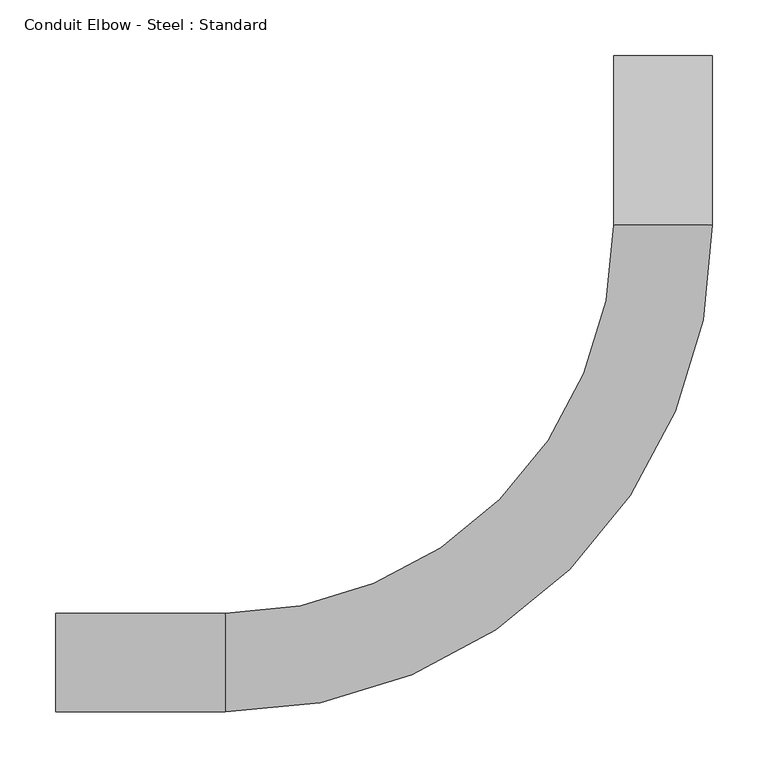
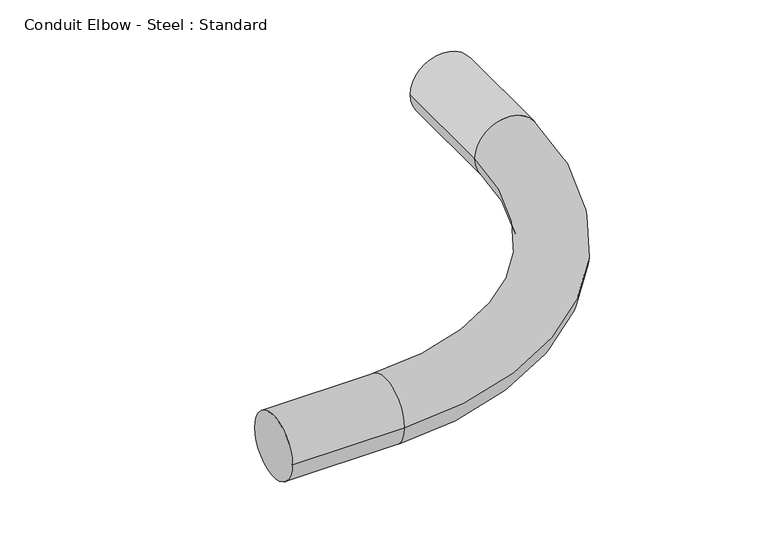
"""IFC4 building model written with IfcOpenShell, lengths in millimetres: cable carrier fitting geometry, Conduit Elbow - Steel : Standard."""

from ifc_helpers import new_model, si_unit, point, frame, origin, place, context, project, spatial, circle_curve, ellipse_curve, trimmed, source, transform, mapped, element, save
from ifc_brep_helpers import plane_surface, cylinder_surface, revolved_surface, advanced_brep


def conduit_elbow_steel_standard_dae572ce(model_context):
    return source(origin(), model_context, "Body", "AdvancedBrep", [
        advanced_brep(
        [(-546.1, -44.45, 0.0), (-546.1, 44.45, 0.0), (-393.7, -44.45, 0.0), (-393.7, 44.45, 0.0), (-44.45, 393.7, 0.0), (44.45, 393.7, 0.0), (44.45, 546.1, 0.0), (-44.45, 546.1, 0.0)],
        [
            (0, 1, circle_curve(frame((-546.1, 0.0, 0.0), z_axis=(-1.0, 0.0, 0.0), x_axis=(0.0, 1.0, 0.0)), 44.45)),
            (1, 0, circle_curve(frame((-546.1, 0.0, 0.0), z_axis=(-1.0, 0.0, 0.0), x_axis=(0.0, 1.0, 0.0)), 44.45)),
            (0, 2),
            (2, 3, circle_curve(frame((-393.7, 0.0, 0.0), z_axis=(-1.0, 0.0, 0.0), x_axis=(0.0, 1.0, 0.0)), 44.45)),
            (3, 1),
            (3, 2, circle_curve(frame((-393.7, 0.0, 0.0), z_axis=(-1.0, 0.0, 0.0), x_axis=(0.0, 1.0, 0.0)), 44.45)),
            (4, 3, circle_curve(frame((-393.7, 393.7, 0.0), z_axis=(0.0, 0.0, -1.0), x_axis=(0.0, -1.0, 0.0)), 349.25)),
            (2, 5, circle_curve(frame((-393.7, 393.7, 0.0), z_axis=(0.0, 0.0, 1.0), x_axis=(0.0, -1.0, 0.0)), 438.15)),
            (5, 4, circle_curve(frame((0.0, 393.7, 0.0), z_axis=(0.0, -1.0, 0.0), x_axis=(-1.0, 0.0, 0.0)), 44.45)),
            (4, 5, circle_curve(frame((0.0, 393.7, 0.0), z_axis=(0.0, -1.0, 0.0), x_axis=(-1.0, 0.0, 0.0)), 44.45)),
            (6, 7, circle_curve(frame((0.0, 546.1, 0.0), z_axis=(0.0, 1.0, 0.0), x_axis=(-1.0, 0.0, 0.0)), 44.45)),
            (7, 6, circle_curve(frame((0.0, 546.1, 0.0), z_axis=(0.0, 1.0, 0.0), x_axis=(-1.0, 0.0, 0.0)), 44.45)),
            (5, 6),
            (7, 4),
        ],
        [
            plane_surface(frame((-546.1, 0.0, 0.0), z_axis=(-1.0, 0.0, 0.0), x_axis=(0.0, 0.0, 1.0))),
            cylinder_surface(frame((-546.1, 0.0, 0.0), z_axis=(-1.0, 0.0, 0.0), x_axis=(0.0, 1.0, 0.0)), 44.45),
            revolved_surface(trimmed(ellipse_curve(frame((-393.7, 0.0, 0.0), z_axis=(-1.0, 0.0, 0.0), x_axis=(0.0, 1.0, 0.0)), 44.45, 44.45), [point((-393.7, -44.45, 0.0))], [point((-393.7, 44.45, 0.0))], True, "CARTESIAN"), (-393.7, 393.7, 0.0), (0.0, 0.0, 1.0)),
            revolved_surface(trimmed(ellipse_curve(frame((-393.7, 0.0, 0.0), z_axis=(-1.0, 0.0, 0.0), x_axis=(0.0, 1.0, 0.0)), 44.45, 44.45), [point((-393.7, 44.45, 0.0))], [point((-393.7, -44.45, 0.0))], True, "CARTESIAN"), (-393.7, 393.7, 0.0), (0.0, 0.0, 1.0)),
            plane_surface(frame((0.0, 546.1, 0.0), z_axis=(0.0, 1.0, 0.0), x_axis=(0.0, 0.0, 1.0))),
            cylinder_surface(frame((0.0, 393.7, 0.0), z_axis=(0.0, -1.0, 0.0), x_axis=(-1.0, 0.0, 0.0)), 44.45),
        ],
        [
            (0, [[1, 2]]),
            (1, [[-1, 3, 4, 5]]),
            (1, [[-2, -5, 6, -3]]),
            (2, [[7, -4, 8, 9]]),
            (3, [[-8, -6, -7, 10]]),
            (4, [[11, 12]]),
            (5, [[-9, 13, -12, 14]]),
            (5, [[-10, -14, -11, -13]]),
        ],
    ),
    ])


if __name__ == "__main__":
    model = new_model("IFC4")
    model_context = context("Model", 3, world=origin())
    ifc_project = project(units=[si_unit("LENGTHUNIT", "METRE", prefix="MILLI")], contexts=[model_context])
    site = spatial("IfcSite", under=ifc_project)
    building = spatial("IfcBuilding", under=site)
    placement = place(None, origin())
    conduit_elbow_steel_standard_shape = conduit_elbow_steel_standard_dae572ce(model_context)
    element("IfcCableCarrierFitting", 1, ObjectType="Conduit Elbow - Steel : Standard", at=placement, inside=building, context=model_context, shape_type="MappedRepresentation", body=[
        mapped(conduit_elbow_steel_standard_shape, transform((0.0, 0.0, 0.0), x_axis=(1.0, 0.0, 0.0), y_axis=(0.0, 1.0, 0.0), z_axis=(0.0, 0.0, 1.0))),
    ])
    save(model, "model.ifc")
